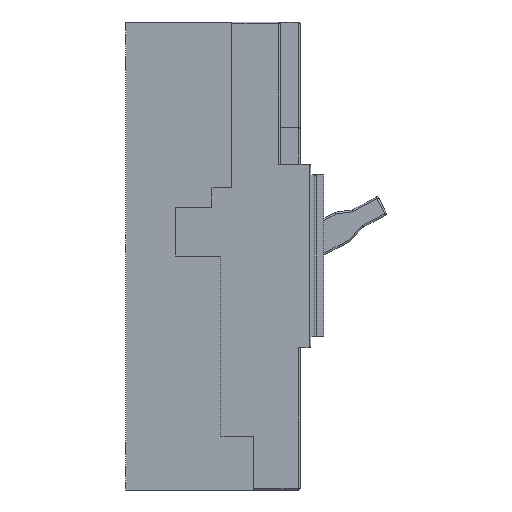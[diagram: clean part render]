
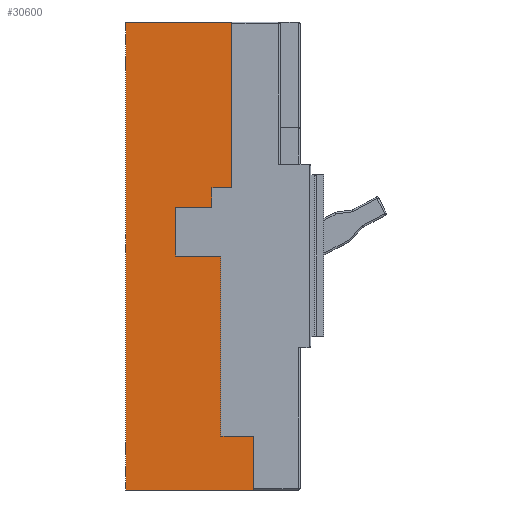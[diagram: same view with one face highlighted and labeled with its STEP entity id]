
A CAD part, left-side view. The second image highlights one B-rep face of the part: STEP entity #30600.
In plain terms, the highlighted planar face has unit normal (-1, 0, 0).
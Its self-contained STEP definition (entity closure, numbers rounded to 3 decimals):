
#10546=DIRECTION('',(0.,1.,0.));
#10547=VECTOR('',#10546,71.);
#10548=CARTESIAN_POINT('',(-70.2,-22.5,-130.));
#10549=LINE('',#10548,#10547);
#10550=DIRECTION('',(0.,0.,1.));
#10551=VECTOR('',#10550,260.);
#10552=CARTESIAN_POINT('',(-70.2,48.5,-130.));
#10553=LINE('',#10552,#10551);
#10554=DIRECTION('',(0.,-1.,0.));
#10555=VECTOR('',#10554,59.);
#10556=CARTESIAN_POINT('',(-70.2,48.5,130.));
#10557=LINE('',#10556,#10555);
#10558=DIRECTION('',(0.,0.,-1.));
#10559=VECTOR('',#10558,92.);
#10560=CARTESIAN_POINT('',(-70.2,-10.5,130.));
#10561=LINE('',#10560,#10559);
#10562=DIRECTION('',(0.,1.,0.));
#10563=VECTOR('',#10562,11.);
#10564=CARTESIAN_POINT('',(-70.2,-10.5,38.));
#10565=LINE('',#10564,#10563);
#10566=DIRECTION('',(0.,0.,-1.));
#10567=VECTOR('',#10566,11.);
#10568=CARTESIAN_POINT('',(-70.2,0.5,38.));
#10569=LINE('',#10568,#10567);
#10570=DIRECTION('',(0.,1.,0.));
#10571=VECTOR('',#10570,20.);
#10572=CARTESIAN_POINT('',(-70.2,0.5,27.));
#10573=LINE('',#10572,#10571);
#10574=DIRECTION('',(0.,0.,-1.));
#10575=VECTOR('',#10574,27.);
#10576=CARTESIAN_POINT('',(-70.2,20.5,27.));
#10577=LINE('',#10576,#10575);
#10578=DIRECTION('',(0.,-1.,0.));
#10579=VECTOR('',#10578,25.);
#10580=CARTESIAN_POINT('',(-70.2,20.5,0.));
#10581=LINE('',#10580,#10579);
#10582=DIRECTION('',(0.,0.,-1.));
#10583=VECTOR('',#10582,100.);
#10584=CARTESIAN_POINT('',(-70.2,-4.5,0.));
#10585=LINE('',#10584,#10583);
#10586=DIRECTION('',(0.,-1.,0.));
#10587=VECTOR('',#10586,18.);
#10588=CARTESIAN_POINT('',(-70.2,-4.5,-100.));
#10589=LINE('',#10588,#10587);
#10590=DIRECTION('',(0.,0.,-1.));
#10591=VECTOR('',#10590,30.);
#10592=CARTESIAN_POINT('',(-70.2,-22.5,-100.));
#10593=LINE('',#10592,#10591);
#14162=CARTESIAN_POINT('',(-70.2,-22.5,-130.));
#14163=CARTESIAN_POINT('',(-70.2,48.5,-130.));
#14164=VERTEX_POINT('',#14162);
#14165=VERTEX_POINT('',#14163);
#14166=CARTESIAN_POINT('',(-70.2,48.5,130.));
#14167=VERTEX_POINT('',#14166);
#14168=CARTESIAN_POINT('',(-70.2,-10.5,130.));
#14169=VERTEX_POINT('',#14168);
#14170=CARTESIAN_POINT('',(-70.2,-10.5,38.));
#14171=VERTEX_POINT('',#14170);
#14172=CARTESIAN_POINT('',(-70.2,0.5,38.));
#14173=VERTEX_POINT('',#14172);
#14174=CARTESIAN_POINT('',(-70.2,0.5,27.));
#14175=VERTEX_POINT('',#14174);
#14176=CARTESIAN_POINT('',(-70.2,20.5,27.));
#14177=VERTEX_POINT('',#14176);
#14178=CARTESIAN_POINT('',(-70.2,20.5,0.));
#14179=VERTEX_POINT('',#14178);
#14180=CARTESIAN_POINT('',(-70.2,-4.5,0.));
#14181=VERTEX_POINT('',#14180);
#14182=CARTESIAN_POINT('',(-70.2,-4.5,-100.));
#14183=VERTEX_POINT('',#14182);
#14184=CARTESIAN_POINT('',(-70.2,-22.5,-100.));
#14185=VERTEX_POINT('',#14184);
#30573=CARTESIAN_POINT('',(-70.2,0.,0.));
#30574=DIRECTION('',(1.,0.,0.));
#30575=DIRECTION('',(0.,0.,1.));
#30576=AXIS2_PLACEMENT_3D('',#30573,#30574,#30575);
#30577=PLANE('',#30576);
#30578=ORIENTED_EDGE('',*,*,#29085,.T.);
#30579=ORIENTED_EDGE('',*,*,#28314,.T.);
#30580=ORIENTED_EDGE('',*,*,#28033,.T.);
#30582=ORIENTED_EDGE('',*,*,#30581,.T.);
#30584=ORIENTED_EDGE('',*,*,#30583,.T.);
#30586=ORIENTED_EDGE('',*,*,#30585,.T.);
#30588=ORIENTED_EDGE('',*,*,#30587,.T.);
#30590=ORIENTED_EDGE('',*,*,#30589,.T.);
#30592=ORIENTED_EDGE('',*,*,#30591,.T.);
#30594=ORIENTED_EDGE('',*,*,#30593,.T.);
#30596=ORIENTED_EDGE('',*,*,#30595,.T.);
#30597=ORIENTED_EDGE('',*,*,#30566,.T.);
#30598=EDGE_LOOP('',(#30578,#30579,#30580,#30582,#30584,#30586,#30588,#30590,
#30592,#30594,#30596,#30597));
#30599=FACE_OUTER_BOUND('',#30598,.F.);
#28033=EDGE_CURVE('',#14167,#14169,#10557,.T.);
#28314=EDGE_CURVE('',#14165,#14167,#10553,.T.);
#29085=EDGE_CURVE('',#14164,#14165,#10549,.T.);
#30566=EDGE_CURVE('',#14185,#14164,#10593,.T.);
#30581=EDGE_CURVE('',#14169,#14171,#10561,.T.);
#30583=EDGE_CURVE('',#14171,#14173,#10565,.T.);
#30585=EDGE_CURVE('',#14173,#14175,#10569,.T.);
#30587=EDGE_CURVE('',#14175,#14177,#10573,.T.);
#30589=EDGE_CURVE('',#14177,#14179,#10577,.T.);
#30591=EDGE_CURVE('',#14179,#14181,#10581,.T.);
#30593=EDGE_CURVE('',#14181,#14183,#10585,.T.);
#30595=EDGE_CURVE('',#14183,#14185,#10589,.T.);
#30600=ADVANCED_FACE('',(#30599),#30577,.F.);
